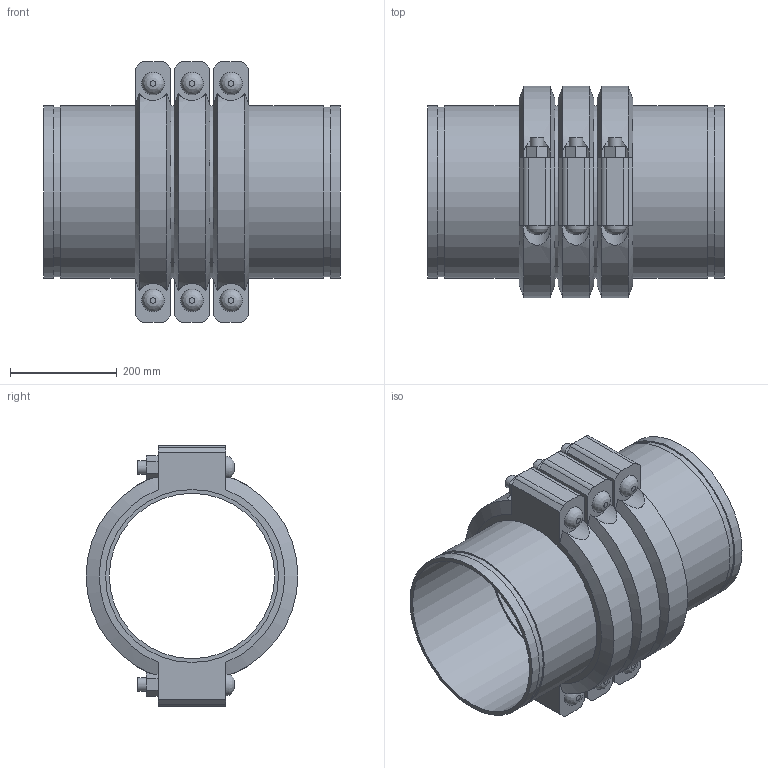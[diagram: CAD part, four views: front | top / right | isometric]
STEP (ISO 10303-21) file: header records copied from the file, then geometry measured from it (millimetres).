
FILE_DESCRIPTION(/* description */ ('VIC SS EXPANSION JOINT 3 COUPLINGS NEUTRAL STYLE 155P (OGS) (POTABLE WATER) ','CAx-IF Rec.Pracs.---Representation and Presentation of Product Manufacturing Information (PMI)---4.0---2014-10-13'),/* implementation_level */ '2;1');
FILE_NAME(/* name */ 'C:\Users\kkamble\AppData\Roaming\Autodesk\ApplicationPlugins\Victaulic.Temp\A227\Victaulic_SS_Expansion Joint_Neutral_3 Couplings_Style 155P (OGS)-Potable Water_3 Coup_Neut_12 (300).stp',/* time_stamp */ '2021-07-16T16:32:38+05:00',/* author */ ('kkamble'),/* organization */ ('Victaulic'),/* preprocessor_version */ 'ST-DEVELOPER v17.2',/* originating_system */ 'Autodesk Inventor 2019',/* authorisation */ '');
FILE_SCHEMA (('AP242_MANAGED_MODEL_BASED_3D_ENGINEERING_MIM_LF { 1 0 10303 442 1 1 4 }'));
Length unit declared in the file: inch
Products named in the file (4): 155P-12.0; Nipple-12.0; Nipple-12.0_1; 077-12.0
Assembly tree (7 placements, depth 2):
  155P-12.0
    Nipple-12.0  x2
    Nipple-12.0_1  x2
    077-12.0  x3
Bounding box: 555.75 x 397 x 488.95 mm (x, y, z)
Volume: 13804434.1 mm3; surface area: 2146523.1 mm2
Topology: 7 solids, 13 shells, 231 faces, 555 edges, 390 vertices
Faces by surface type: plane 132, cylinder 81, cone 12, bspline 6
Full cylindrical faces by diameter (mm): 25.4 x12, 27.432 x6, 309.677 x4, 314.96 x3, 318.287 x8, 323.85 x18
Entity records: 3025 total; most frequent: CARTESIAN_POINT 655, DIRECTION 469, ORIENTED_EDGE 410, EDGE_CURVE 205, AXIS2_PLACEMENT_3D 190, VERTEX_POINT 146, EDGE_LOOP 111, CIRCLE 96
